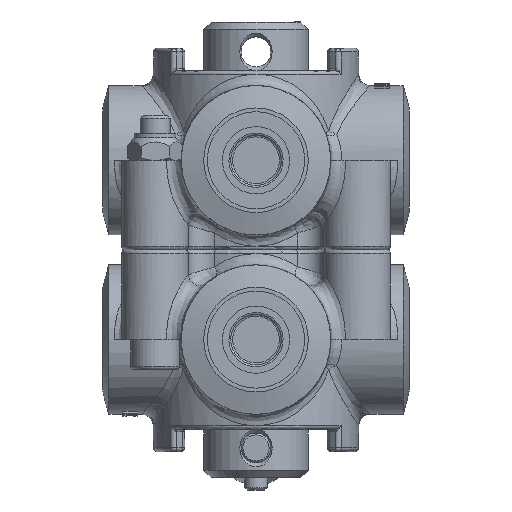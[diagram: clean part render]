
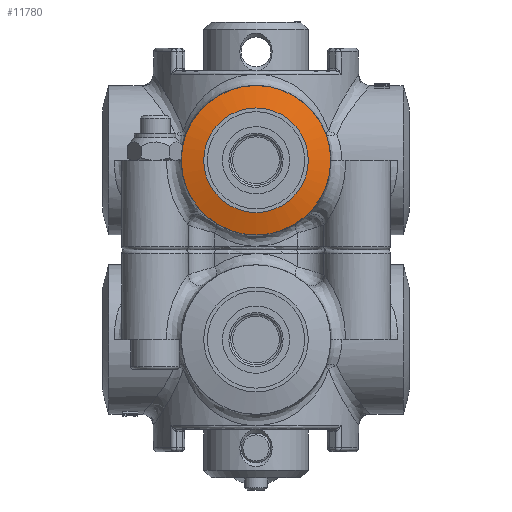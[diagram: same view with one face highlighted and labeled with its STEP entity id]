
A CAD part, left-side view. The second image highlights one B-rep face of the part: STEP entity #11780.
In plain terms, the highlighted conical face has half-angle 75 degrees and reference radius 17 mm.
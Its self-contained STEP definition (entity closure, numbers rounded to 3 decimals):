
#7580=CARTESIAN_POINT('',(-39.392,20.,48.));
#7581=VERTEX_POINT('',#7580);
#7582=CARTESIAN_POINT('',(-39.392,0.,48.));
#7583=DIRECTION('',(-1.0,0.0,0.0));
#7584=DIRECTION('',(0.0,-1.0,0.0));
#7585=AXIS2_PLACEMENT_3D('',#7582,#7583,#7584);
#7586=CIRCLE('',#7585,20.0);
#7587=EDGE_CURVE('',#7581,#7581,#7586,.T.);
#11761=CARTESIAN_POINT('',(-40.196,0.,48.));
#11762=DIRECTION('',(1.0,0.,0.));
#11763=DIRECTION('',(0.0,-1.0,0.0));
#11764=AXIS2_PLACEMENT_3D('',#11761,#11762,#11763);
#11765=CONICAL_SURFACE('',#11764,17.0,75.);
#11766=CARTESIAN_POINT('',(-41.,14.,48.));
#11767=VERTEX_POINT('',#11766);
#11768=CARTESIAN_POINT('',(-41.,0.,48.));
#11769=DIRECTION('',(1.0,0.0,0.0));
#11770=DIRECTION('',(0.0,-1.0,0.0));
#11771=AXIS2_PLACEMENT_3D('',#11768,#11769,#11770);
#11772=CIRCLE('',#11771,14.0);
#11773=EDGE_CURVE('',#11767,#11767,#11772,.T.);
#11774=ORIENTED_EDGE('',*,*,#11773,.T.);
#11775=EDGE_LOOP('',(#11774));
#11776=FACE_OUTER_BOUND('',#11775,.T.);
#11777=ORIENTED_EDGE('',*,*,#7587,.T.);
#11778=EDGE_LOOP('',(#11777));
#11779=FACE_BOUND('',#11778,.T.);
#11780=ADVANCED_FACE('',(#11776,#11779),#11765,.T.);
